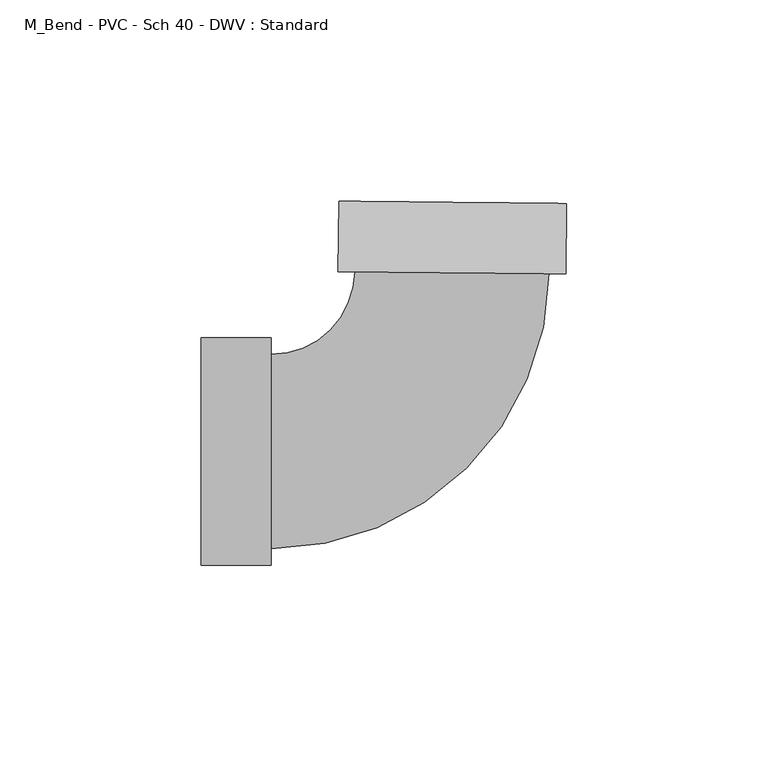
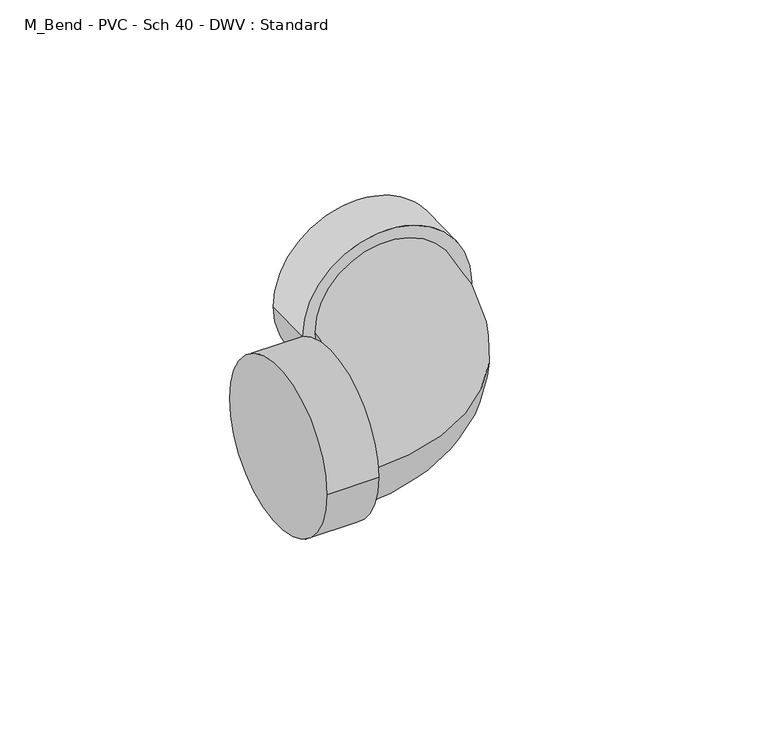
"""IFC4 building model written with IfcOpenShell, lengths in millimetres: pipe fitting geometry, M_Bend - PVC - Sch 40 - DWV : Standard."""

from ifc_helpers import new_model, si_unit, point, frame, origin, place, context, project, spatial, circle_curve, ellipse_curve, trimmed, source, transform, mapped, element, save
from ifc_brep_helpers import plane_surface, cylinder_surface, revolved_surface, advanced_brep


def m_bend_pvc_sch_40_dwv_standard_8255d195(model_context):
    return source(origin(), model_context, "Body", "AdvancedBrep", [
        advanced_brep(
        [(-61.8998, -28.2829, 0.0), (-61.8998, 28.2829, 0.0), (-44.45, -28.2829, 0.0), (-44.45, 28.2829, 0.0), (-44.45, -24.13, 0.0), (-44.45, 24.13, 0.0), (-23.6843586, 44.6890429, 0.0), (24.5732291, 44.2065133, 0.0), (28.7259215, 44.1649903, 0.0), (-27.837051, 44.7305659, 0.0), (28.900394, 61.613918, 0.0), (-27.6625784, 62.1794936, 0.0)],
        [
            (0, 1, circle_curve(frame((-61.8998, 0.0, 0.0), z_axis=(-1.0, 0.0, 0.0), x_axis=(0.0, 1.0, 0.0)), 28.2829)),
            (1, 0, circle_curve(frame((-61.8998, 0.0, 0.0), z_axis=(-1.0, 0.0, 0.0), x_axis=(0.0, 1.0, 0.0)), 28.2829)),
            (2, 3, circle_curve(frame((-44.45, 0.0, 0.0), z_axis=(1.0, 0.0, 0.0), x_axis=(0.0, 1.0, 0.0)), 28.2829)),
            (3, 2, circle_curve(frame((-44.45, 0.0, 0.0), z_axis=(1.0, 0.0, 0.0), x_axis=(0.0, 1.0, 0.0)), 28.2829)),
            (4, 5, circle_curve(frame((-44.45, 0.0, 0.0), z_axis=(-1.0, 0.0, 0.0), x_axis=(0.0, 1.0, 0.0)), 24.13)),
            (5, 4, circle_curve(frame((-44.45, 0.0, 0.0), z_axis=(-1.0, 0.0, 0.0), x_axis=(0.0, 1.0, 0.0)), 24.13)),
            (0, 2),
            (3, 1),
            (6, 5, circle_curve(frame((-44.45, 44.8966795, 0.0), z_axis=(0.0, 0.0, -1.0), x_axis=(0.0, -1.0, 0.0)), 20.7666795)),
            (4, 7, circle_curve(frame((-44.45, 44.8966795, 0.0), z_axis=(0.0, 0.0, 1.0), x_axis=(0.0, -1.0, 0.0)), 69.0266795)),
            (7, 6, circle_curve(frame((0.4444352, 44.4477781, 0.0), z_axis=(-0.00999854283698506, -0.9999500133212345, 0.0), x_axis=(-0.9999500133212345, 0.00999854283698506, 0.0)), 24.13)),
            (6, 7, circle_curve(frame((0.4444352, 44.4477781, 0.0), z_axis=(-0.00999854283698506, -0.9999500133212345, 0.0), x_axis=(-0.9999500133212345, 0.00999854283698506, 0.0)), 24.13)),
            (8, 9, circle_curve(frame((0.4444352, 44.4477781, 0.0), z_axis=(-0.009998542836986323, -0.9999500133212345, 0.0), x_axis=(-0.9999500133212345, 0.009998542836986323, 0.0)), 28.2829)),
            (9, 8, circle_curve(frame((0.4444352, 44.4477781, 0.0), z_axis=(-0.009998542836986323, -0.9999500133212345, 0.0), x_axis=(-0.9999500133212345, 0.009998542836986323, 0.0)), 28.2829)),
            (10, 11, circle_curve(frame((0.6189078, 61.8967058, 0.0), z_axis=(0.009998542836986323, 0.9999500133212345, 0.0), x_axis=(-0.9999500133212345, 0.009998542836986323, 0.0)), 28.2829)),
            (11, 10, circle_curve(frame((0.6189078, 61.8967058, 0.0), z_axis=(0.009998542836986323, 0.9999500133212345, 0.0), x_axis=(-0.9999500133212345, 0.009998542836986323, 0.0)), 28.2829)),
            (8, 10),
            (11, 9),
        ],
        [
            plane_surface(frame((-61.8998, 0.0, 0.0), z_axis=(-1.0, 0.0, 0.0), x_axis=(0.0, 0.0, 1.0))),
            plane_surface(frame((-44.45, 0.0, 0.0), z_axis=(1.0, 0.0, 0.0), x_axis=(0.0, 0.0, 1.0))),
            cylinder_surface(frame((-61.8998, 0.0, 0.0), z_axis=(-1.0, 0.0, 0.0), x_axis=(0.0, 1.0, 0.0)), 28.2829),
            revolved_surface(trimmed(ellipse_curve(frame((-44.45, 0.0, 0.0), z_axis=(-1.0, 0.0, 0.0), x_axis=(0.0, 1.0, 0.0)), 24.13, 24.13), [point((-44.45, -24.13, 0.0))], [point((-44.45, 24.13, 0.0))], True, "CARTESIAN"), (-44.45, 44.8966795, 0.0), (0.0, 0.0, 1.0)),
            revolved_surface(trimmed(ellipse_curve(frame((-44.45, 0.0, 0.0), z_axis=(-1.0, 0.0, 0.0), x_axis=(0.0, 1.0, 0.0)), 24.13, 24.13), [point((-44.45, 24.13, 0.0))], [point((-44.45, -24.13, 0.0))], True, "CARTESIAN"), (-44.45, 44.8966795, 0.0), (0.0, 0.0, 1.0)),
            plane_surface(frame((0.4444352, 44.4477781, 0.0), z_axis=(-0.009998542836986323, -0.9999500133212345, 0.0), x_axis=(0.0, 0.0, 1.0))),
            plane_surface(frame((0.6189078, 61.8967058, 0.0), z_axis=(0.009998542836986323, 0.9999500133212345, 0.0), x_axis=(0.0, 0.0, 1.0))),
            cylinder_surface(frame((0.4444352, 44.4477781, 0.0), z_axis=(-0.009998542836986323, -0.9999500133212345, 0.0), x_axis=(-0.9999500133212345, 0.009998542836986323, 0.0)), 28.2829),
        ],
        [
            (0, [[1, 2]]),
            (1, [[3, 4], [5, 6]]),
            (2, [[-1, 7, -4, 8]]),
            (2, [[-2, -8, -3, -7]]),
            (3, [[9, -5, 10, 11]]),
            (4, [[-9, 12, -10, -6]]),
            (5, [[13, 14], [-11, -12]]),
            (6, [[15, 16]]),
            (7, [[-13, 17, -16, 18]]),
            (7, [[-14, -18, -15, -17]]),
        ],
    ),
    ])


if __name__ == "__main__":
    model = new_model("IFC4")
    model_context = context("Model", 3, world=origin())
    ifc_project = project(units=[si_unit("LENGTHUNIT", "METRE", prefix="MILLI")], contexts=[model_context])
    site = spatial("IfcSite", under=ifc_project)
    building = spatial("IfcBuilding", under=site)
    placement = place(None, origin())
    m_bend_pvc_sch_40_dwv_standard_shape = m_bend_pvc_sch_40_dwv_standard_8255d195(model_context)
    element("IfcPipeFitting", 1, ObjectType="M_Bend - PVC - Sch 40 - DWV : Standard", at=placement, inside=building, context=model_context, shape_type="MappedRepresentation", body=[
        mapped(m_bend_pvc_sch_40_dwv_standard_shape, transform((0.0, 0.0, 0.0), x_axis=(1.0, 0.0, 0.0), y_axis=(0.0, 1.0, 0.0), z_axis=(0.0, 0.0, 1.0))),
    ])
    save(model, "model.ifc")
